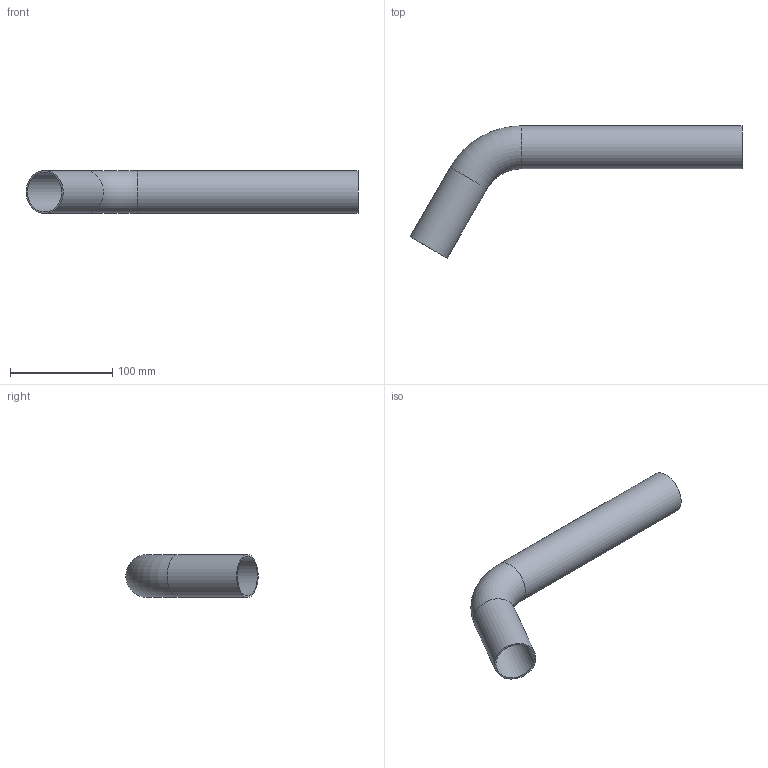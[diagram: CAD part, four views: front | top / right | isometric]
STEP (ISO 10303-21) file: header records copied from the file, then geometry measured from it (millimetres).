
FILE_DESCRIPTION((''),'2;1');
FILE_NAME('G:\Technics\CAD\Bauteile\042\6905842(1).stp','2008-03-03T13:38:54',('herberg'),(''),'Autodesk Inventor 2008','Autodesk Inventor 2008','');
FILE_SCHEMA(('AUTOMOTIVE_DESIGN { 1 0 10303 214 1 1 1 1 }'));
Length unit declared in the file: millimetre
Products named in the file (1): 6905842(1)
Bounding box: 324.69 x 129.36 x 42 mm (x, y, z)
Volume: 68048.2 mm3; surface area: 91112.6 mm2
Topology: 1 solids, 1 shells, 8 faces, 14 edges, 8 vertices
Faces by surface type: cylinder 4, torus 2, plane 2
Full cylindrical faces by diameter (mm): 39 x2, 42 x2
Entity records: 194 total; most frequent: DIRECTION 34, CARTESIAN_POINT 25, AXIS2_PLACEMENT_3D 17, ORIENTED_EDGE 16, EDGE_LOOP 16, VERTEX_POINT 8, CIRCLE 8, EDGE_CURVE 8
